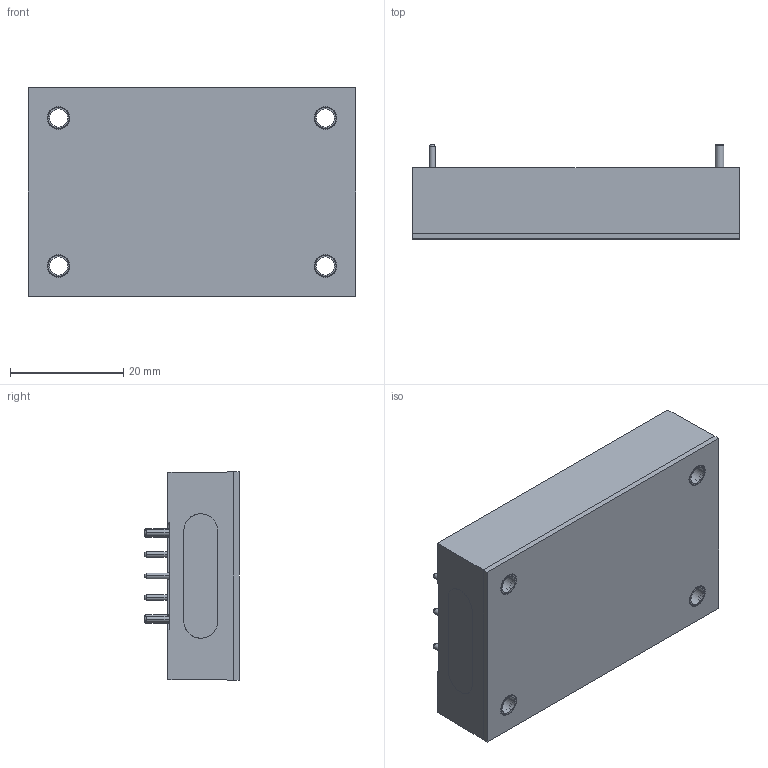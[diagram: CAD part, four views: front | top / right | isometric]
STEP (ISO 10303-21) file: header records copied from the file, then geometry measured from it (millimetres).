
FILE_DESCRIPTION (( 'STEP AP214' ), '1' );
FILE_NAME ('QSB100 Through hole.STEP', '2021-08-27T17:44:29', ( '' ), ( '' ), 'SwSTEP 2.0', 'SolidWorks 2020', '' );
FILE_SCHEMA (( 'AUTOMOTIVE_DESIGN' ));
Length unit declared in the file: inch
Products named in the file (6): QSB100 Baseplate and Inserts; Pins; QSB100 Baseplate; QSB100 Through hole; Thru Insert; QSB100 Case
Assembly tree (8 placements, depth 3):
  QSB100 Through hole
    QSB100 Baseplate and Inserts
      QSB100 Baseplate
      Thru Insert  x4
    Pins
    QSB100 Case
Bounding box: 57.9 x 16.7 x 36.8 mm (x, y, z)
Volume: 26311.4 mm3; surface area: 20421.1 mm2
Topology: 7 solids, 7 shells, 867 faces, 2374 edges, 1576 vertices
Faces by surface type: plane 522, cone 152, bspline 127, cylinder 66
Entity records: 25756 total; most frequent: CARTESIAN_POINT 11040, ORIENTED_EDGE 3254, DIRECTION 2494, EDGE_CURVE 1627, LINE 1102, VECTOR 1102, VERTEX_POINT 1078, EDGE_LOOP 699
